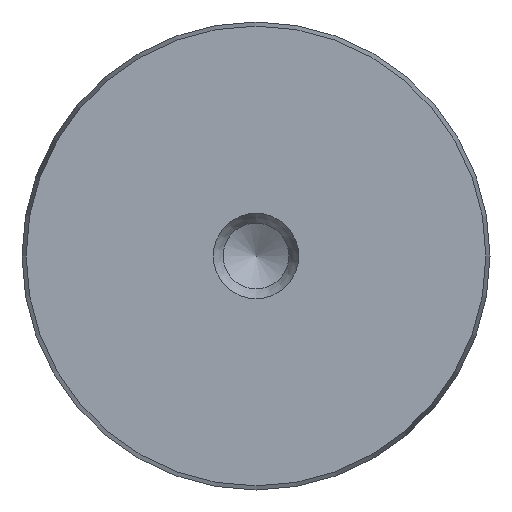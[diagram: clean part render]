
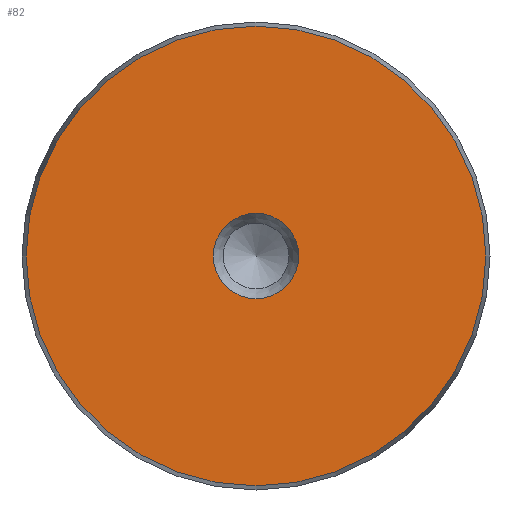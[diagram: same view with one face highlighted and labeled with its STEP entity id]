
A CAD part, front view. The second image highlights one B-rep face of the part: STEP entity #82.
In plain terms, the highlighted planar face has unit normal (0, -1, 0).
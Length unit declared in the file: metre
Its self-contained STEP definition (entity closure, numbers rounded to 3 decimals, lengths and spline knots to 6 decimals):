
#82 = ADVANCED_FACE( '', ( #108, #109 ), #110, .T. );
#108 = FACE_BOUND( '', #150, .T. );
#109 = FACE_OUTER_BOUND( '', #151, .T. );
#110 = PLANE( '', #152 );
#150 = EDGE_LOOP( '', ( #202 ) );
#151 = EDGE_LOOP( '', ( #203 ) );
#152 = AXIS2_PLACEMENT_3D( '', #204, #205, #206 );
#202 = ORIENTED_EDGE( '', *, *, #252, .T. );
#203 = ORIENTED_EDGE( '', *, *, #254, .T. );
#204 = CARTESIAN_POINT( '', ( 0., -0.112, 0. ) );
#205 = DIRECTION( '', ( 0., -1., 0. ) );
#206 = DIRECTION( '', ( 0., 0., -1. ) );
#252 = EDGE_CURVE( '', #270, #270, #271, .F. );
#254 = EDGE_CURVE( '', #274, #274, #275, .T. );
#270 = VERTEX_POINT( '', #296 );
#271 = CIRCLE( '', #297, 0.004375 );
#274 = VERTEX_POINT( '', #300 );
#275 = CIRCLE( '', #301, 0.023578 );
#296 = CARTESIAN_POINT( '', ( 0., -0.112, -0.004375 ) );
#297 = AXIS2_PLACEMENT_3D( '', #326, #327, #328 );
#300 = CARTESIAN_POINT( '', ( 0., -0.112, -0.023578 ) );
#301 = AXIS2_PLACEMENT_3D( '', #332, #333, #334 );
#326 = CARTESIAN_POINT( '', ( 0., -0.112, 0. ) );
#327 = DIRECTION( '', ( 0., -1., 0. ) );
#328 = DIRECTION( '', ( 0., 0., -1. ) );
#332 = CARTESIAN_POINT( '', ( 0., -0.112, 0. ) );
#333 = DIRECTION( '', ( 0., -1., 0. ) );
#334 = DIRECTION( '', ( 0., 0., -1. ) );
